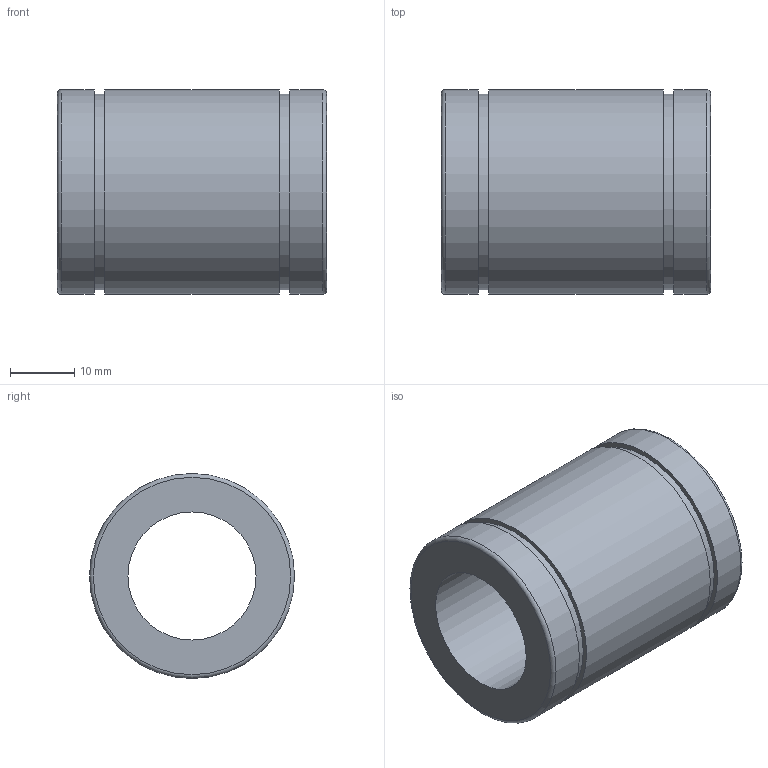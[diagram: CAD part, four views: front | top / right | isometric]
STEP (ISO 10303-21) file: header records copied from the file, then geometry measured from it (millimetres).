
FILE_DESCRIPTION(('STEP AP203'),'1');
FILE_NAME('//192.168.1.1/share/s-4 技術開発/s-4-13_CAD/03_見直し済み/001 修正済み/N/N_TOP/N-20.step','2020-03-17T00:39:30',(' '),(' '),'Spatial InterOp 3D',' ',' ');
FILE_SCHEMA(('CONFIG_CONTROL_DESIGN'));
Length unit declared in the file: millimetre
Products named in the file (1): 1
Bounding box: 42 x 32 x 32 mm (x, y, z)
Volume: 20332.7 mm3; surface area: 8068.8 mm2
Topology: 1 solids, 1 shells, 14 faces, 23 edges, 15 vertices
Faces by surface type: cylinder 6, plane 6, torus 2
Full cylindrical faces by diameter (mm): 20 x1, 30.5 x2, 32 x3
Entity records: 332 total; most frequent: DIRECTION 58, CARTESIAN_POINT 43, AXIS2_PLACEMENT_3D 29, EDGE_LOOP 28, ORIENTED_EDGE 28, FACE_OUTER_BOUND 22, ADVANCED_FACE 14, EDGE_CURVE 14
